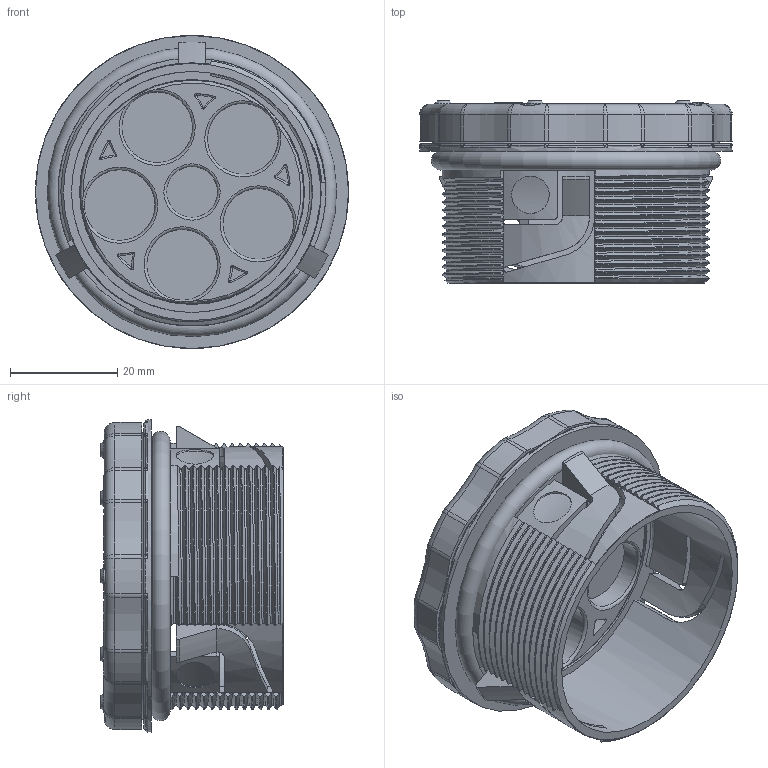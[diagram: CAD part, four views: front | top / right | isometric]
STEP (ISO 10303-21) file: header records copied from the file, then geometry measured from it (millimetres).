
FILE_DESCRIPTION(/* description */ (''),/* implementation_level */ '2;1');
FILE_NAME(/* name */ 'C:\SapWorkDir\Inventor\MP1\ConvertTempPath\87_16_121505_00_A_220622_KDP-R M50-06 ZSB.stp',/* time_stamp */ '2022-06-22T15:46:53+02:00',/* author */ ('BAUER'),/* organization */ (''),/* preprocessor_version */ 'ST-DEVELOPER v16.13',/* originating_system */ 'Autodesk Inventor 2018',/* authorisation */ '');
FILE_SCHEMA (('AUTOMOTIVE_DESIGN { 1 0 10303 214 3 1 1 }'));
Products named in the file (7): 121505; Gehäuse; 87.16.44.6; 87.16.45.1; 87.16.45.2; 87.16.45.3; 121497
Assembly tree (6 placements, depth 2):
  121505
    Gehäuse
    87.16.44.6
    87.16.45.1
    87.16.45.2
    87.16.45.3
    121497
Bounding box: 58.4 x 34 x 58.4 mm (x, y, z)
Volume: 28760.1 mm3; surface area: 33333.5 mm2
Topology: 6 solids, 6 shells, 1525 faces, 4047 edges, 2588 vertices
Faces by surface type: plane 519, bspline 396, cylinder 336, torus 180, sphere 69, cone 25
Full cylindrical faces by diameter (mm): 2 x7, 3.8 x7, 4 x2, 4.8 x2, 5 x2, 6.2 x5, 7 x3, 8.5 x1, 9.5 x1, 10 x1, 10.8 x1, 12.2 x5, 13.2 x5, 13.7 x5, 14.5 x3, 44.2 x2, 45 x1, 46 x2, 46.2 x1, 48.7 x1, 50 x1, 53.4 x1, 54.4 x1, 58.4 x1
Entity records: 54084 total; most frequent: CARTESIAN_POINT 18527, ORIENTED_EDGE 7766, DIRECTION 6537, EDGE_CURVE 3883, VERTEX_POINT 2556, AXIS2_PLACEMENT_3D 2434, EDGE_LOOP 1761, LINE 1669
